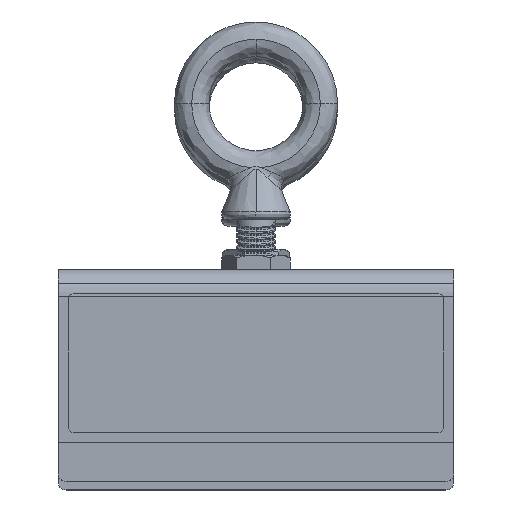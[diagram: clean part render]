
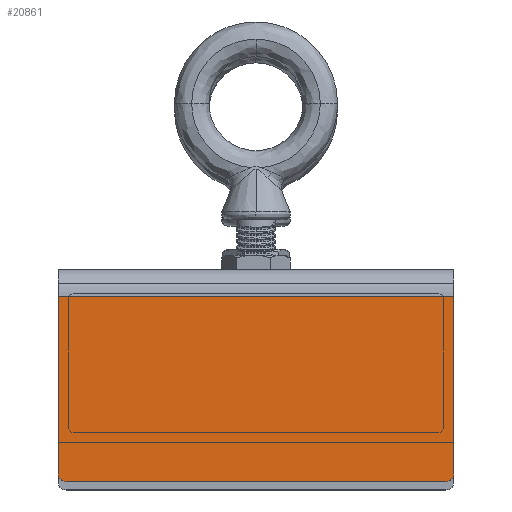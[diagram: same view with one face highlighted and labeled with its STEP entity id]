
A CAD part, top view. The second image highlights one B-rep face of the part: STEP entity #20861.
In plain terms, the highlighted planar face has unit normal (0, 0, 1).
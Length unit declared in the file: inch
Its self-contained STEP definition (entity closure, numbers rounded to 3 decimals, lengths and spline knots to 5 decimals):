
#7764 = FACE_OUTER_BOUND ( 'NONE', #53549, .T. ) ;
#9768 = CARTESIAN_POINT ( 'NONE',  ( 2.4, -1.5, 30.0005 ) ) ;
#13745 = VECTOR ( 'NONE', #44067, 39.37008 ) ;
#15972 = DIRECTION ( 'NONE',  ( 0., 0., 1. ) ) ;
#16162 = CARTESIAN_POINT ( 'NONE',  ( 2.5, -1.4, 30.0005 ) ) ;
#16510 = CIRCLE ( 'NONE', #76668, 0.1 ) ;
#18189 = CARTESIAN_POINT ( 'NONE',  ( -2.5, 0.84, 30.0005 ) ) ;
#20861 = ADVANCED_FACE ( 'NONE', ( #7764 ), #119203, .T. ) ;
#23364 = LINE ( 'NONE', #53201, #44233 ) ;
#24339 = DIRECTION ( 'NONE',  ( 0., 1., 0. ) ) ;
#30497 = VERTEX_POINT ( 'NONE', #96867 ) ;
#31140 = DIRECTION ( 'NONE',  ( 0., 0., 1. ) ) ;
#40136 = EDGE_CURVE ( 'NONE', #116431, #30497, #105929, .T. ) ;
#41024 = VERTEX_POINT ( 'NONE', #47869 ) ;
#41420 = EDGE_CURVE ( 'NONE', #41024, #133847, #16510, .T. ) ;
#42918 = EDGE_CURVE ( 'NONE', #133847, #123531, #103051, .T. ) ;
#43595 = ORIENTED_EDGE ( 'NONE', *, *, #40136, .F. ) ;
#44067 = DIRECTION ( 'NONE',  ( 1., 0., 0. ) ) ;
#44233 = VECTOR ( 'NONE', #86131, 39.37008 ) ;
#47869 = CARTESIAN_POINT ( 'NONE',  ( -2.5, -1.4, 30.0005 ) ) ;
#48130 = VECTOR ( 'NONE', #142975, 39.37008 ) ;
#53201 = CARTESIAN_POINT ( 'NONE',  ( -2.5, 1., 30.0005 ) ) ;
#53549 = EDGE_LOOP ( 'NONE', ( #116816, #68052, #132141, #43595, #130028, #99083 ) ) ;
#54045 = DIRECTION ( 'NONE',  ( 0., 1., 0. ) ) ;
#56209 = CARTESIAN_POINT ( 'NONE',  ( -2.5, -1.5, 30.0005 ) ) ;
#58476 = AXIS2_PLACEMENT_3D ( 'NONE', #68821, #90443, #24339 ) ;
#65404 = CARTESIAN_POINT ( 'NONE',  ( -2.4, -1.5, 30.0005 ) ) ;
#66939 = LINE ( 'NONE', #119375, #77547 ) ;
#68052 = ORIENTED_EDGE ( 'NONE', *, *, #138679, .T. ) ;
#68821 = CARTESIAN_POINT ( 'NONE',  ( 2.4, -1.4, 30.0005 ) ) ;
#70057 = EDGE_CURVE ( 'NONE', #30497, #100681, #66939, .T. ) ;
#76668 = AXIS2_PLACEMENT_3D ( 'NONE', #137837, #15972, #115756 ) ;
#77547 = VECTOR ( 'NONE', #85703, 39.37008 ) ;
#85703 = DIRECTION ( 'NONE',  ( 0., -1., 0. ) ) ;
#86131 = DIRECTION ( 'NONE',  ( 0., -1., 0. ) ) ;
#90443 = DIRECTION ( 'NONE',  ( 0., 0., 1. ) ) ;
#96867 = CARTESIAN_POINT ( 'NONE',  ( 2.5, 0.84, 30.0005 ) ) ;
#99083 = ORIENTED_EDGE ( 'NONE', *, *, #41420, .T. ) ;
#100681 = VERTEX_POINT ( 'NONE', #16162 ) ;
#103051 = LINE ( 'NONE', #56209, #13745 ) ;
#105929 = LINE ( 'NONE', #18189, #48130 ) ;
#106539 = AXIS2_PLACEMENT_3D ( 'NONE', #141777, #31140, #54045 ) ;
#110989 = EDGE_CURVE ( 'NONE', #116431, #41024, #23364, .T. ) ;
#115756 = DIRECTION ( 'NONE',  ( 0., 1., 0. ) ) ;
#116431 = VERTEX_POINT ( 'NONE', #123560 ) ;
#116816 = ORIENTED_EDGE ( 'NONE', *, *, #42918, .T. ) ;
#119203 = PLANE ( 'NONE',  #106539 ) ;
#119375 = CARTESIAN_POINT ( 'NONE',  ( 2.5, 1., 30.0005 ) ) ;
#123531 = VERTEX_POINT ( 'NONE', #9768 ) ;
#123560 = CARTESIAN_POINT ( 'NONE',  ( -2.5, 0.84, 30.0005 ) ) ;
#130028 = ORIENTED_EDGE ( 'NONE', *, *, #110989, .T. ) ;
#132141 = ORIENTED_EDGE ( 'NONE', *, *, #70057, .F. ) ;
#133847 = VERTEX_POINT ( 'NONE', #65404 ) ;
#137837 = CARTESIAN_POINT ( 'NONE',  ( -2.4, -1.4, 30.0005 ) ) ;
#138679 = EDGE_CURVE ( 'NONE', #123531, #100681, #140131, .T. ) ;
#140131 = CIRCLE ( 'NONE', #58476, 0.1 ) ;
#141777 = CARTESIAN_POINT ( 'NONE',  ( -2.5, 1., 30.0005 ) ) ;
#142975 = DIRECTION ( 'NONE',  ( 1., 0., 0. ) ) ;
